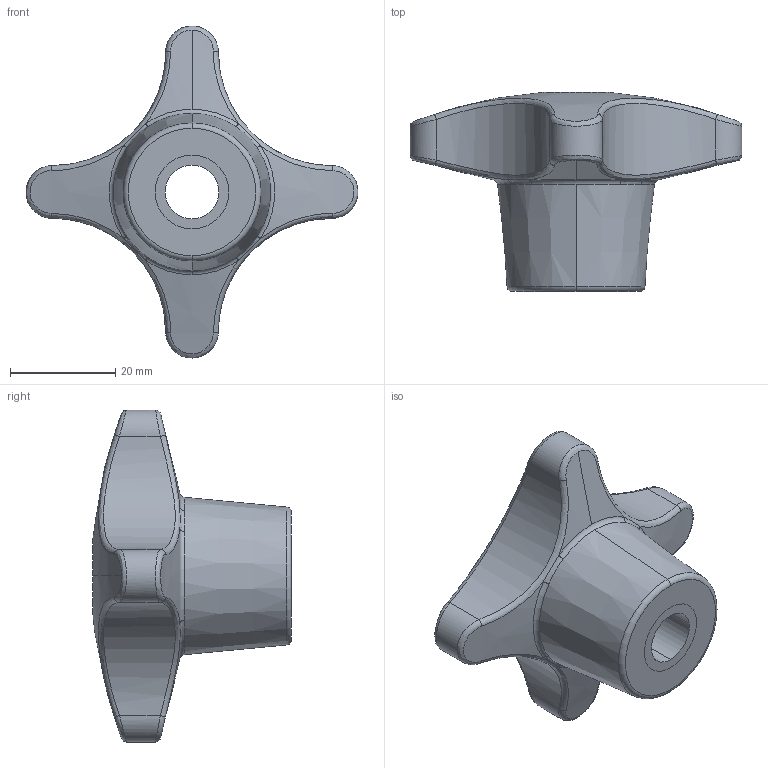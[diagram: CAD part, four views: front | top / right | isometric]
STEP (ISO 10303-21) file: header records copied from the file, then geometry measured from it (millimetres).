
FILE_DESCRIPTION (( 'STEP AP214' ), '1' );
FILE_NAME ('1121 63 401.STEP', '2010-11-26T15:56:29', ( 'Marc' ), ( '' ), 'SwSTEP 2.0', 'SolidWorks 2010', '' );
FILE_SCHEMA (( 'AUTOMOTIVE_DESIGN' ));
Length unit declared in the file: millimetre
Products named in the file (1): 1121 63 401
Bounding box: 62.99 x 37.75 x 63 mm (x, y, z)
Volume: 30431.7 mm3; surface area: 10277.3 mm2
Topology: 2 solids, 2 shells, 62 faces, 144 edges, 85 vertices
Faces by surface type: bspline 20, cylinder 19, cone 11, torus 7, plane 3, sphere 2
Entity records: 9421 total; most frequent: CARTESIAN_POINT 7990, ORIENTED_EDGE 288, DIRECTION 250, EDGE_CURVE 144, AXIS2_PLACEMENT_3D 112, VERTEX_POINT 85, CIRCLE 69, EDGE_LOOP 65
